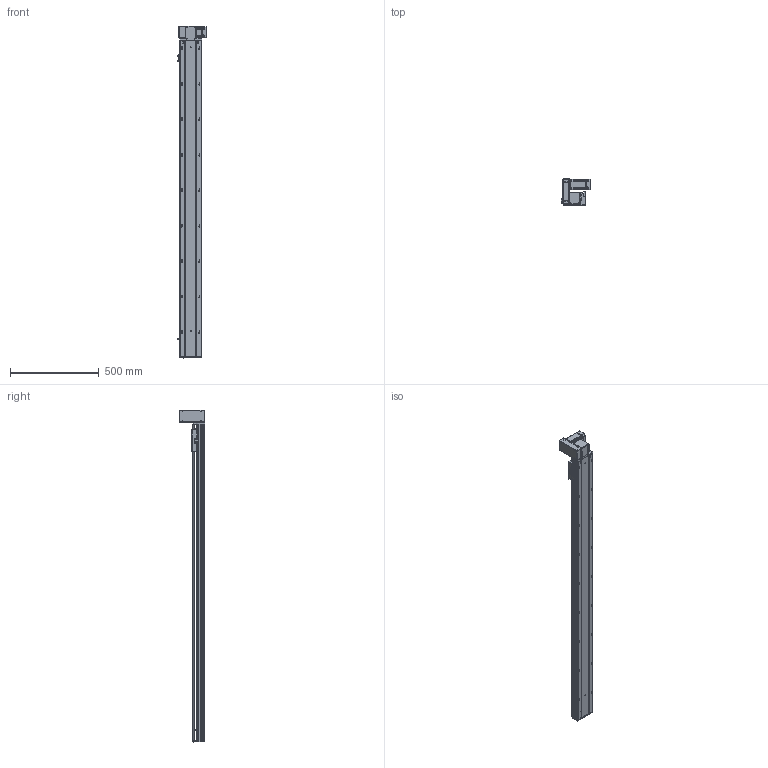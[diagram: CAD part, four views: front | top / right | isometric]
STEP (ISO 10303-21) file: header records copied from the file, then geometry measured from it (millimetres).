
FILE_DESCRIPTION (( 'STEP AP203' ), '1' );
FILE_NAME ('RY120-T-300-UL.SLDASM_1550.step', '2021-03-01T05:37:07', ( '盈信电脑' ), ( '东莞市道滘镇水果街19号' ), 'SwSTEP 2.0', 'SolidWorks 2012', '' );
FILE_SCHEMA (( 'CONFIG_CONTROL_DESIGN' ));
Length unit declared in the file: millimetre
Products named in the file (18): RY120-T-300-UL.SLDASM_1550; RY120-T翋肮祭謫裔啣; RY120-T蹟翐M4; 侂狟400W侜督萇儂; RY120-T萇儂欶; RY120-T主同步轮轴承压盖; 滅袉蝶18-10; 15; RY120-T肮祭湍揤踡輸2; RY120-T萇儂假蚾啣; RY120-T翋肮祭盓傅釱; RY120外置感应片(140共用）; RY120-T肮祭湍揤踡輸1; 覜茼ん672; RY120-T-300-UL倰第菁釱_1550; RY120肮祭湍臏賑輸; RY120-T-300-UL倰第奻裔啣_1550; RY120綴裔啣
Assembly tree (23 placements, depth 3):
  RY120-T-300-UL.SLDASM_1550
    RY120-T-300-UL倰第菁釱_1550
    RY120-T-300-UL倰第奻裔啣_1550
    RY120肮祭湍臏賑輸
    RY120綴裔啣
    覜茼ん672  x3
    RY120外置感应片(140共用）
    RY120-T肮祭湍揤踡輸1
    RY120-T肮祭湍揤踡輸2
    RY120-T翋肮祭盓傅釱
    RY120-T萇儂假蚾啣
    侂狟400W侜督萇儂
      15
    RY120-T主同步轮轴承压盖
    滅袉蝶18-10  x2
    RY120-T萇儂欶
    RY120-T蹟翐M4  x4
    RY120-T翋肮祭謫裔啣
Bounding box: 164.2 x 146 x 1871 mm (x, y, z)
Volume: 4821813.3 mm3; surface area: 1827613.1 mm2
Topology: 23 solids, 23 shells, 2972 faces, 8116 edges, 5184 vertices
Faces by surface type: plane 1432, cylinder 1160, cone 291, bspline 89
Entity records: 95146 total; most frequent: CARTESIAN_POINT 24492, ORIENTED_EDGE 14584, DIRECTION 13790, EDGE_CURVE 7292, VERTEX_POINT 4771, AXIS2_PLACEMENT_3D 4657, VECTOR 4476, LINE 4476
